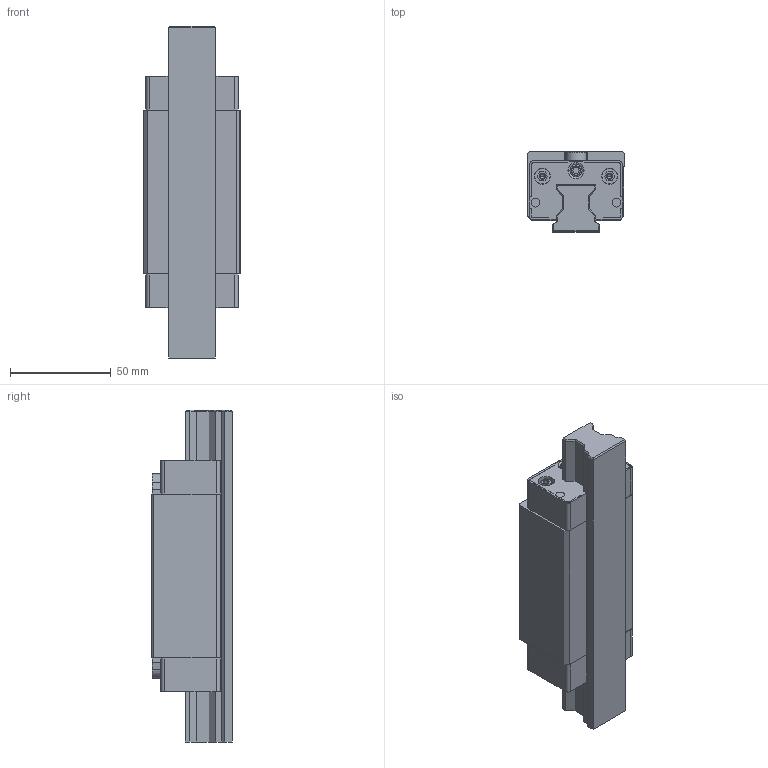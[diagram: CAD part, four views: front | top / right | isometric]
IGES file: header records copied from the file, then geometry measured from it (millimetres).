
Start section: 3D InterOp IGES (v. 2019 1.0.2), Spatial Corp. Copyright (c) 1999-2017.
Global section: file name: R1824_size25.igs; native system: Spatial Corp.; preprocessor: 3D InterOp GENERIC/IGES 3.0; author: Noname; organization: Noname; date: 20220630.112907; units: millimetre
Bounding box: 48 x 40 x 165 mm (x, y, z)
Surface area: 57608.1 mm2 (no closed solid volume)
Topology: 0 solids, 0 shells, 380 faces, 1960 edges, 1936 vertices
Faces by surface type: extrusion 226, revolution 154
